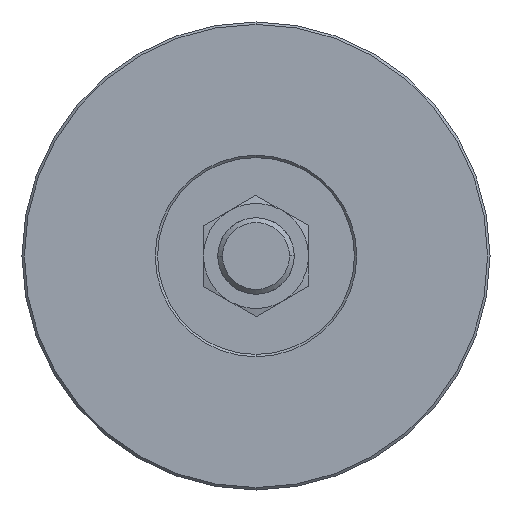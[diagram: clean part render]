
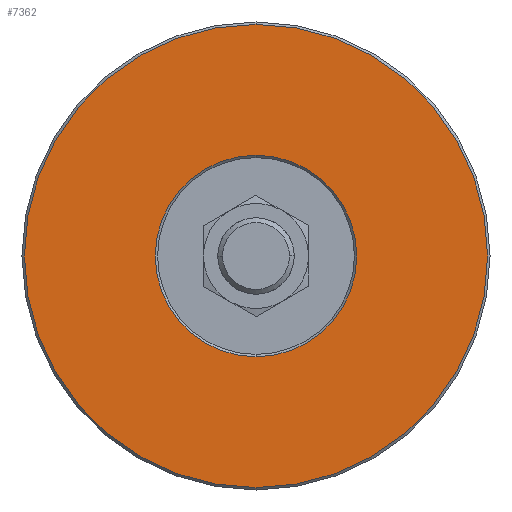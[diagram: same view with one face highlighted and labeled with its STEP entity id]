
A CAD part, front view. The second image highlights one B-rep face of the part: STEP entity #7362.
In plain terms, the highlighted planar face has unit normal (0, -1, 0).
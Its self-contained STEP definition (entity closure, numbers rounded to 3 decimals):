
#334 = DIRECTION ( 'NONE',  ( 0., 0., -1. ) ) ;
#475 = DIRECTION ( 'NONE',  ( 0., 0., -1. ) ) ;
#677 = EDGE_CURVE ( 'NONE', #4461, #1719, #7131, .T. ) ;
#791 = AXIS2_PLACEMENT_3D ( 'NONE', #4525, #7918, #7861 ) ;
#826 = EDGE_CURVE ( 'NONE', #1719, #4461, #4537, .T. ) ;
#1103 = DIRECTION ( 'NONE',  ( 0., -1., 0. ) ) ;
#1108 = DIRECTION ( 'NONE',  ( 0., -1., 0. ) ) ;
#1121 = DIRECTION ( 'NONE',  ( 0., 0., -1. ) ) ;
#1175 = DIRECTION ( 'NONE',  ( 0., 1., 0. ) ) ;
#1203 = CARTESIAN_POINT ( 'NONE',  ( 0., 0., 0. ) ) ;
#1313 = EDGE_LOOP ( 'NONE', ( #2742, #6423 ) ) ;
#1415 = AXIS2_PLACEMENT_3D ( 'NONE', #6586, #1103, #475 ) ;
#1698 = CIRCLE ( 'NONE', #1415, 48.5 ) ;
#1719 = VERTEX_POINT ( 'NONE', #4591 ) ;
#2470 = DIRECTION ( 'NONE',  ( 0., -1., 0. ) ) ;
#2635 = VERTEX_POINT ( 'NONE', #5005 ) ;
#2643 = EDGE_LOOP ( 'NONE', ( #6917, #3341 ) ) ;
#2742 = ORIENTED_EDGE ( 'NONE', *, *, #677, .T. ) ;
#3341 = ORIENTED_EDGE ( 'NONE', *, *, #7706, .T. ) ;
#4461 = VERTEX_POINT ( 'NONE', #7233 ) ;
#4488 = CARTESIAN_POINT ( 'NONE',  ( 0., 0., 0. ) ) ;
#4525 = CARTESIAN_POINT ( 'NONE',  ( 0., 0., 0. ) ) ;
#4537 = CIRCLE ( 'NONE', #5699, 21.1 ) ;
#4591 = CARTESIAN_POINT ( 'NONE',  ( 0., 0., 21.1 ) ) ;
#5005 = CARTESIAN_POINT ( 'NONE',  ( 0., 0., -48.5 ) ) ;
#5149 = FACE_BOUND ( 'NONE', #1313, .T. ) ;
#5258 = PLANE ( 'NONE',  #6350 ) ;
#5370 = CIRCLE ( 'NONE', #7828, 48.5 ) ;
#5699 = AXIS2_PLACEMENT_3D ( 'NONE', #1203, #1175, #1121 ) ;
#5925 = DIRECTION ( 'NONE',  ( 0., 0., -1. ) ) ;
#6328 = EDGE_CURVE ( 'NONE', #7962, #2635, #1698, .T. ) ;
#6350 = AXIS2_PLACEMENT_3D ( 'NONE', #7942, #2470, #334 ) ;
#6423 = ORIENTED_EDGE ( 'NONE', *, *, #826, .T. ) ;
#6586 = CARTESIAN_POINT ( 'NONE',  ( 0., 0., 0. ) ) ;
#6917 = ORIENTED_EDGE ( 'NONE', *, *, #6328, .T. ) ;
#7131 = CIRCLE ( 'NONE', #791, 21.1 ) ;
#7233 = CARTESIAN_POINT ( 'NONE',  ( 0., 0., -21.1 ) ) ;
#7362 = ADVANCED_FACE ( 'NONE', ( #7504, #5149 ), #5258, .T. ) ;
#7387 = CARTESIAN_POINT ( 'NONE',  ( 0., 0., 48.5 ) ) ;
#7504 = FACE_OUTER_BOUND ( 'NONE', #2643, .T. ) ;
#7706 = EDGE_CURVE ( 'NONE', #2635, #7962, #5370, .T. ) ;
#7828 = AXIS2_PLACEMENT_3D ( 'NONE', #4488, #1108, #5925 ) ;
#7861 = DIRECTION ( 'NONE',  ( 0., 0., -1. ) ) ;
#7918 = DIRECTION ( 'NONE',  ( 0., 1., 0. ) ) ;
#7942 = CARTESIAN_POINT ( 'NONE',  ( 20.6, 0., 0. ) ) ;
#7962 = VERTEX_POINT ( 'NONE', #7387 ) ;
